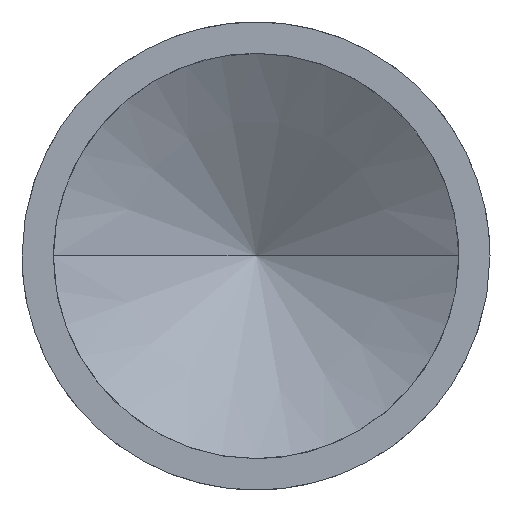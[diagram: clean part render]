
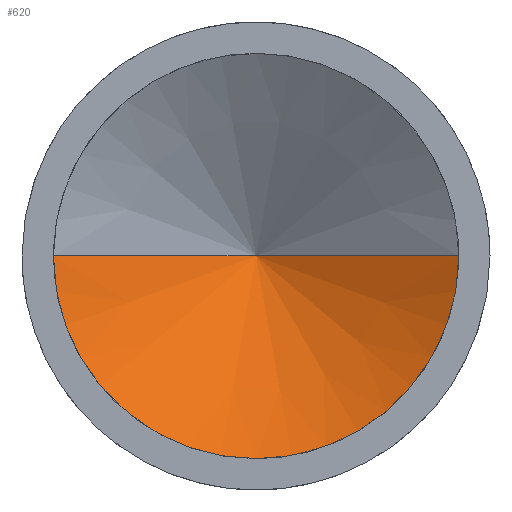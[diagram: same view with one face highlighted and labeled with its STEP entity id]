
A CAD part, left-side view. The second image highlights one B-rep face of the part: STEP entity #620.
In plain terms, the highlighted conical face has half-angle 59 degrees and reference radius 5.5 mm.
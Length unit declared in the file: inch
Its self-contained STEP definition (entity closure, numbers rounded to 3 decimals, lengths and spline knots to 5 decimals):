
#47 = CARTESIAN_POINT ( 'NONE',  ( 0.54097, -0.21654, 0. ) ) ;
#50 = CARTESIAN_POINT ( 'NONE',  ( 0.54097, 0., -0.21654 ) ) ;
#74 = VERTEX_POINT ( 'NONE', #47 ) ;
#146 = DIRECTION ( 'NONE',  ( -1., 0., 0. ) ) ;
#164 = CARTESIAN_POINT ( 'NONE',  ( 0.67108, 0., 0. ) ) ;
#172 = CARTESIAN_POINT ( 'NONE',  ( 0.54097, 0., 0. ) ) ;
#254 = DIRECTION ( 'NONE',  ( 0., -1., 0. ) ) ;
#271 = EDGE_CURVE ( 'NONE', #498, #74, #465, .T. ) ;
#304 = AXIS2_PLACEMENT_3D ( 'NONE', #651, #146, #729 ) ;
#324 = ORIENTED_EDGE ( 'NONE', *, *, #458, .T. ) ;
#337 = VERTEX_POINT ( 'NONE', #814 ) ;
#384 = DIRECTION ( 'NONE',  ( -0.515, 0.857, 0. ) ) ;
#431 = CARTESIAN_POINT ( 'NONE',  ( 0.54097, 0., 0. ) ) ;
#458 = EDGE_CURVE ( 'NONE', #1023, #337, #643, .T. ) ;
#465 = CIRCLE ( 'NONE', #304, 0.21654 ) ;
#496 = CONICAL_SURFACE ( 'NONE', #746, 0.21654, 1.03 ) ;
#498 = VERTEX_POINT ( 'NONE', #50 ) ;
#516 = DIRECTION ( 'NONE',  ( 0., 0., 1. ) ) ;
#538 = FACE_OUTER_BOUND ( 'NONE', #587, .T. ) ;
#551 = DIRECTION ( 'NONE',  ( -0.515, -0.857, 0. ) ) ;
#561 = VECTOR ( 'NONE', #551, 39.37008 ) ;
#564 = ORIENTED_EDGE ( 'NONE', *, *, #686, .T. ) ;
#570 = EDGE_CURVE ( 'NONE', #1023, #74, #984, .T. ) ;
#582 = ORIENTED_EDGE ( 'NONE', *, *, #271, .T. ) ;
#587 = EDGE_LOOP ( 'NONE', ( #748, #324, #564, #582 ) ) ;
#620 = ADVANCED_FACE ( 'NONE', ( #538 ), #496, .F. ) ;
#643 = LINE ( 'NONE', #877, #805 ) ;
#651 = CARTESIAN_POINT ( 'NONE',  ( 0.54097, 0., 0. ) ) ;
#686 = EDGE_CURVE ( 'NONE', #337, #498, #731, .T. ) ;
#717 = CARTESIAN_POINT ( 'NONE',  ( 0.54097, -0.21654, 0. ) ) ;
#729 = DIRECTION ( 'NONE',  ( 0., 0., 1. ) ) ;
#731 = CIRCLE ( 'NONE', #869, 0.21654 ) ;
#746 = AXIS2_PLACEMENT_3D ( 'NONE', #172, #755, #254 ) ;
#748 = ORIENTED_EDGE ( 'NONE', *, *, #570, .F. ) ;
#755 = DIRECTION ( 'NONE',  ( -1., 0., 0. ) ) ;
#805 = VECTOR ( 'NONE', #384, 39.37008 ) ;
#814 = CARTESIAN_POINT ( 'NONE',  ( 0.54097, 0.21654, 0. ) ) ;
#869 = AXIS2_PLACEMENT_3D ( 'NONE', #431, #1007, #516 ) ;
#877 = CARTESIAN_POINT ( 'NONE',  ( 0.54097, 0.21654, 0. ) ) ;
#984 = LINE ( 'NONE', #717, #561 ) ;
#1007 = DIRECTION ( 'NONE',  ( -1., 0., 0. ) ) ;
#1023 = VERTEX_POINT ( 'NONE', #164 ) ;
